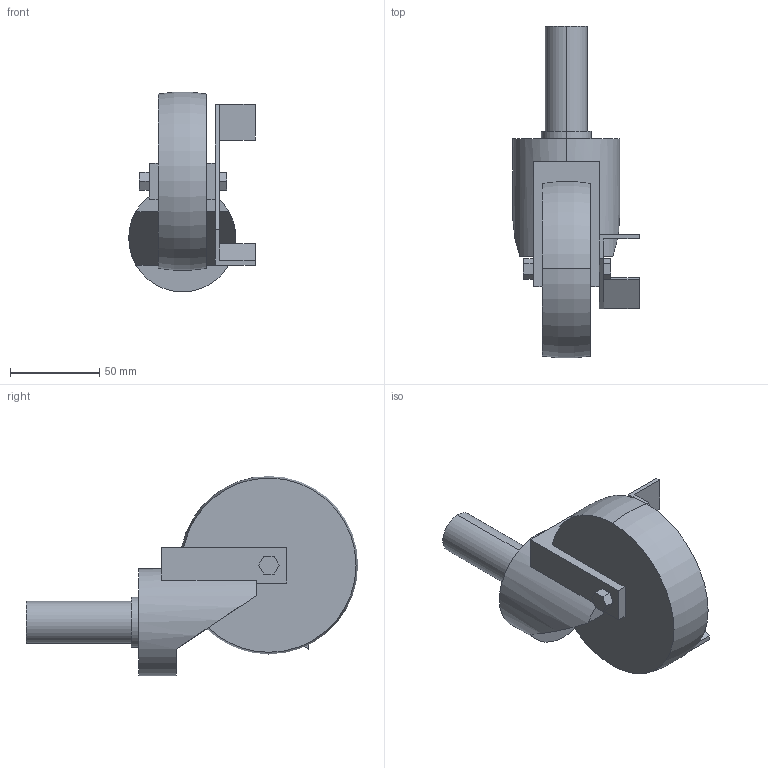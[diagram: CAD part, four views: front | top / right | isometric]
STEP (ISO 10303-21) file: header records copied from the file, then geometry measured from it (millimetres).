
FILE_DESCRIPTION (( 'STEP AP214' ), '1' );
FILE_NAME ('GES-100S.step', '2024-02-15T04:38:14', ( 'catia' ), ( 'HP Inc.' ), 'SwSTEP 2.0', 'SolidWorks 2021', '' );
FILE_SCHEMA (( 'AUTOMOTIVE_DESIGN' ));
Length unit declared in the file: millimetre
Products named in the file (1): GES-100S
Bounding box: 70.8 x 185.86 x 111.86 mm (x, y, z)
Volume: 356255.4 mm3; surface area: 44677.1 mm2
Topology: 1 solids, 1 shells, 56 faces, 144 edges, 94 vertices
Faces by surface type: plane 47, cylinder 6, torus 3
Entity records: 1730 total; most frequent: CARTESIAN_POINT 317, ORIENTED_EDGE 288, DIRECTION 278, EDGE_CURVE 144, VECTOR 116, LINE 116, VERTEX_POINT 94, AXIS2_PLACEMENT_3D 81
